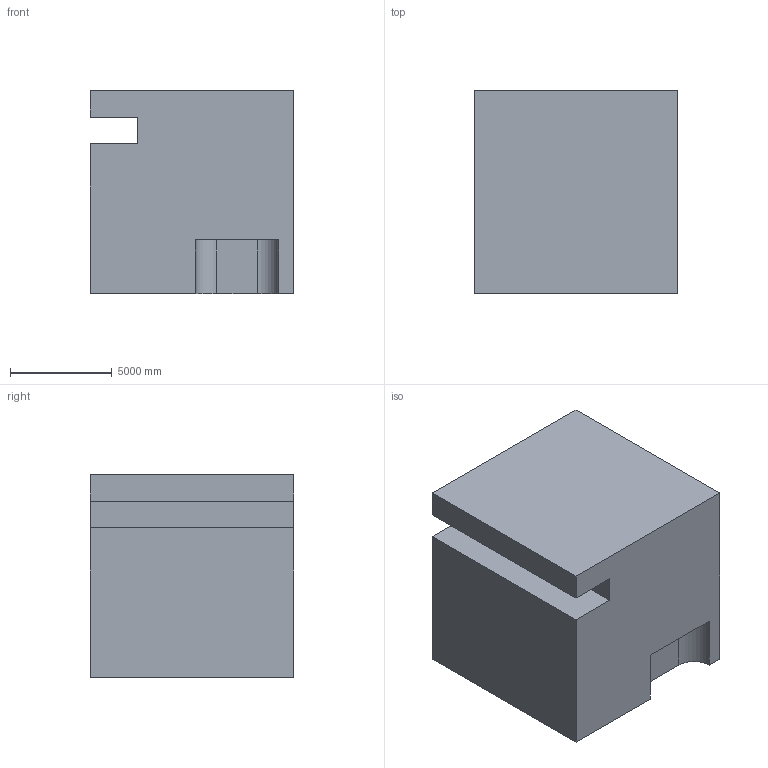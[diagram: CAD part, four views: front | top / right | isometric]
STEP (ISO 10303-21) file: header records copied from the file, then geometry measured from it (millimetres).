
FILE_DESCRIPTION (( 'STEP AP203' ), '1' );
FILE_NAME ('1084.STEP', '2022-08-18T12:41:43', ( 'user' ), ( '' ), 'SwSTEP 2.0', 'SolidWorks 2021', '' );
FILE_SCHEMA (( 'CONFIG_CONTROL_DESIGN' ));
Length unit declared in the file: centimetre
Products named in the file (1): 1084
Bounding box: 10000 x 10000 x 10000 mm (x, y, z)
Volume: 959520648183.2 mm3; surface area: 643746477.2 mm2
Topology: 1 solids, 1 shells, 14 faces, 36 edges, 24 vertices
Faces by surface type: plane 12, cylinder 2
Entity records: 501 total; most frequent: CARTESIAN_POINT 75, ORIENTED_EDGE 72, DIRECTION 70, EDGE_CURVE 36, VECTOR 32, LINE 32, VERTEX_POINT 24, AXIS2_PLACEMENT_3D 19
